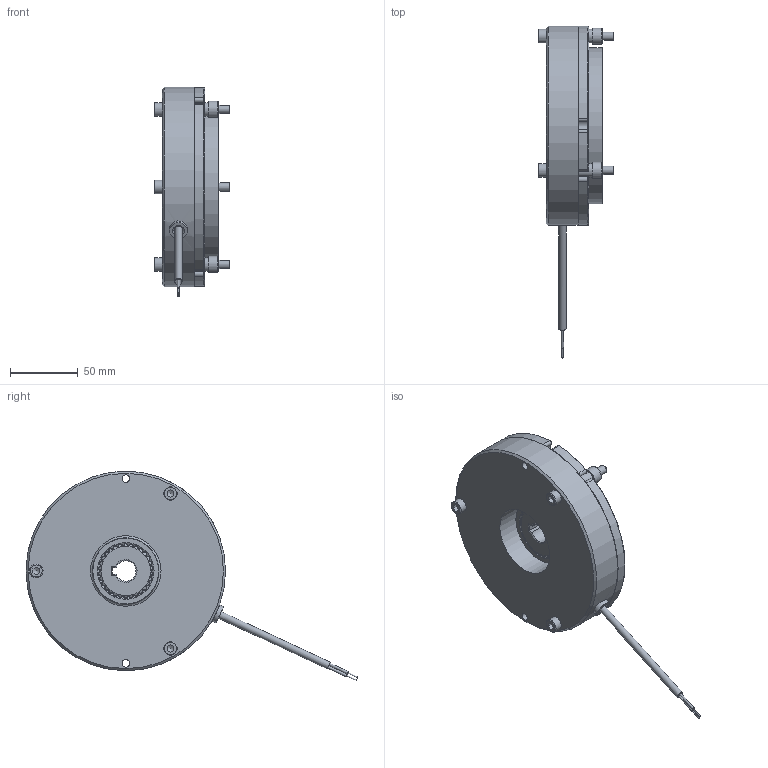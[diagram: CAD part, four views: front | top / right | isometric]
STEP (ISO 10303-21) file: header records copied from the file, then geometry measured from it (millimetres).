
FILE_DESCRIPTION(/* description */ (''),/* implementation_level */ '2;1');
FILE_NAME(/* name */ 'C:\SapWorkDir\Inventor\IP1\ConvertTempPath\5029488_IPT_000.ipt.stp',/* time_stamp */ '2021-04-21T08:21:22+02:00',/* author */ ('WOELK'),/* organization */ (''),/* preprocessor_version */ 'ST-DEVELOPER v17',/* originating_system */ 'Autodesk Inventor 2018',/* authorisation */ '');
FILE_SCHEMA (('AUTOMOTIVE_DESIGN { 1 0 10303 214 3 1 1 }'));
Products named in the file (1): 5029488
Bounding box: 56 x 244.65 x 154.44 mm (x, y, z)
Volume: 581028.8 mm3; surface area: 115173.3 mm2
Topology: 2 solids, 2 shells, 1639 faces, 5294 edges, 3518 vertices
Faces by surface type: cylinder 907, plane 363, torus 215, cone 93, bspline 61
Full cylindrical faces by diameter (mm): 1 x2, 1.85 x2, 5.3 x1, 5.5 x3, 6 x3, 6.15 x3, 6.5 x3, 6.6 x1, 8.917 x3, 10 x6, 10.4 x3, 12 x3, 13.2 x1, 43.45 x1, 52 x2, 69.5 x2, 70.1 x2, 115 x1, 147 x1
Entity records: 65736 total; most frequent: CARTESIAN_POINT 18262, ORIENTED_EDGE 10584, DIRECTION 9032, EDGE_CURVE 5292, VERTEX_POINT 3518, AXIS2_PLACEMENT_3D 3494, LINE 2044, VECTOR 2044
